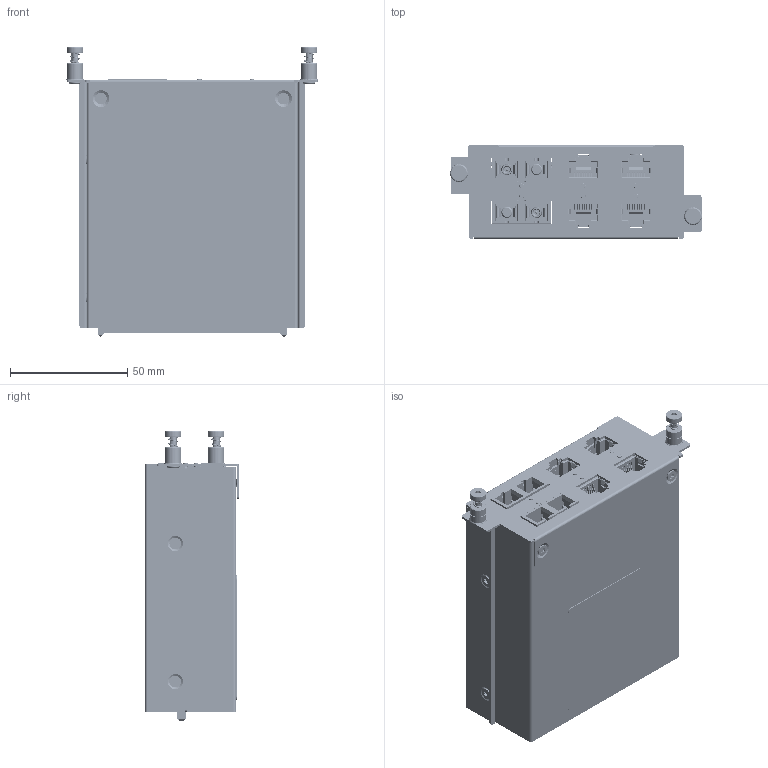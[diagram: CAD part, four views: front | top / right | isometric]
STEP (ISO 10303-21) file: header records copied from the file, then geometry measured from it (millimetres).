
FILE_DESCRIPTION((''),'2;1');
FILE_NAME('RM_G4000_2MSC_4TX_3D_SW0001','2022-06-28T01:06:42',('VicWM_Chen'),('PTC'),'CREO PARAMETRIC BY PTC INC, 2018020','CREO PARAMETRIC BY PTC INC, 2018020','');
FILE_SCHEMA(('AUTOMOTIVE_DESIGN { 1 0 10303 214 1 1 1 1 }'));
Products named in the file (1): RM_G4000_2MSC_4TX_3D_SW0001
Bounding box: 107.6 x 40.1 x 123.8 mm (x, y, z)
Volume: 92199.6 mm3; surface area: 158706.3 mm2
Topology: 23 solids, 24 shells, 19566 faces, 56289 edges, 36207 vertices
Faces by surface type: plane 13729, cylinder 4885, torus 476, bspline 286, cone 142, sphere 48
Entity records: 811549 total; most frequent: CARTESIAN_POINT 166324, ORIENTED_EDGE 112482, DIRECTION 102902, EDGE_CURVE 56241, VECTOR 44252, LINE 44252, VERTEX_POINT 36207, AXIS2_PLACEMENT_3D 29325
